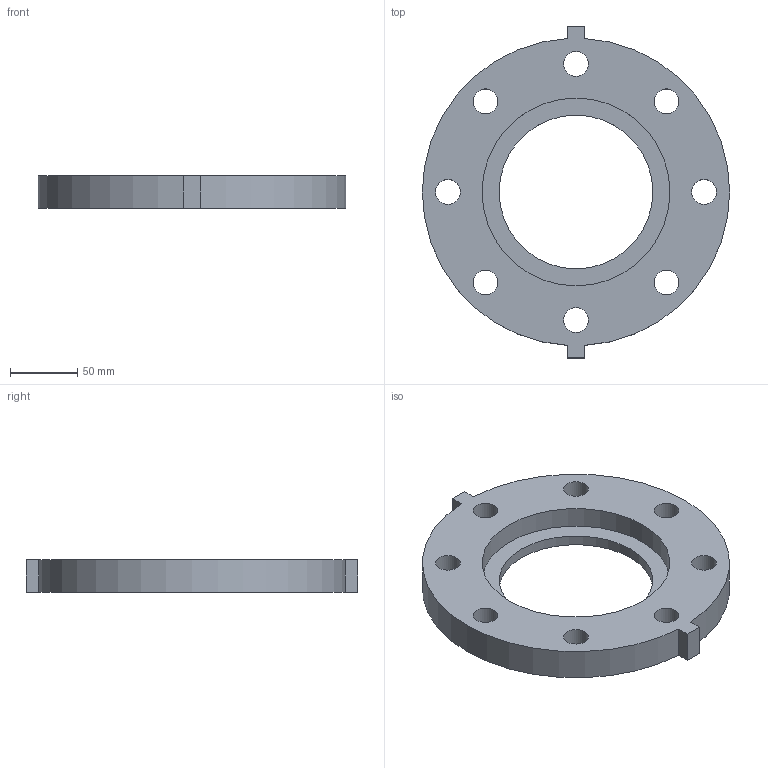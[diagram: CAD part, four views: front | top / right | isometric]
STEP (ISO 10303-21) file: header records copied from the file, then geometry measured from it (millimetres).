
FILE_DESCRIPTION(/* description */ ('VIC FLANGE ADAPTER STYLE 441','CAx-IF Rec.Pracs.---Representation and Presentation of Product Manufacturing Information (PMI)---4.0---2014-10-13'),/* implementation_level */ '2;1');
FILE_NAME(/* name */ 'C:\Users\kkamble\AppData\Roaming\Autodesk\ApplicationPlugins\Back Up\Victaulic_SS-OGS_Flange Adapter_CL 150_Style 441 (OGSxFLG)\Victaulic_SS-OGS_Flange Adapter_CL 150_Style 441 (OGSxFLG)_4 (100).stp',/* time_stamp */ '2020-08-27T09:29:48+06:00',/* author */ ('mchristi'),/* organization */ ('Victaulic'),/* preprocessor_version */ 'ST-DEVELOPER v17.2',/* originating_system */ 'Autodesk Inventor 2019',/* authorisation */ '');
FILE_SCHEMA (('AP242_MANAGED_MODEL_BASED_3D_ENGINEERING_MIM_LF { 1 0 10303 442 1 1 4 }'));
Length unit declared in the file: inch
Products named in the file (1): 441-04.0
Bounding box: 228.6 x 246.89 x 23.88 mm (x, y, z)
Volume: 608312.4 mm3; surface area: 96719 mm2
Topology: 1 solids, 1 shells, 21 faces, 54 edges, 36 vertices
Faces by surface type: cylinder 12, plane 9
Full cylindrical faces by diameter (mm): 18.542 x8, 114.3 x1, 139.7 x1
Entity records: 841 total; most frequent: DIRECTION 148, CARTESIAN_POINT 129, ORIENTED_EDGE 108, AXIS2_PLACEMENT_3D 59, EDGE_CURVE 54, EDGE_LOOP 40, VERTEX_POINT 36, LINE 30
